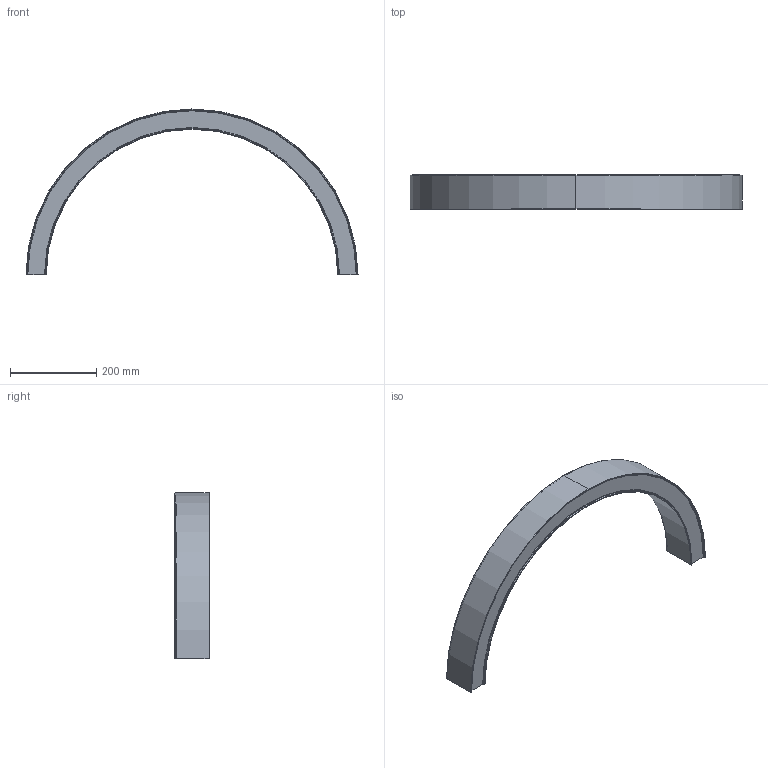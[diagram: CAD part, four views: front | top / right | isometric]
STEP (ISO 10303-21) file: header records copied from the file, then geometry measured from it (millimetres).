
FILE_DESCRIPTION (( 'STEP AP203' ), '1' );
FILE_NAME ('mLight_Swerve 47_R362.5 mm 180 deg.STEP', '2020-04-01T01:20:57', ( '' ), ( '' ), 'SwSTEP 2.0', 'SolidWorks 2017', '' );
FILE_SCHEMA (( 'CONFIG_CONTROL_DESIGN' ));
Length unit declared in the file: millimetre
Products named in the file (1): mLight_Swerve 47_R362.5 mm 180 deg
Bounding box: 772 x 80.63 x 386 mm (x, y, z)
Volume: 4105819 mm3; surface area: 321636.8 mm2
Topology: 1 solids, 1 shells, 79 faces, 209 edges, 132 vertices
Faces by surface type: torus 48, cylinder 12, plane 10, cone 9
Entity records: 2604 total; most frequent: DIRECTION 529, CARTESIAN_POINT 421, ORIENTED_EDGE 418, AXIS2_PLACEMENT_3D 240, EDGE_CURVE 209, CIRCLE 160, VERTEX_POINT 132, FACE_OUTER_BOUND 79
